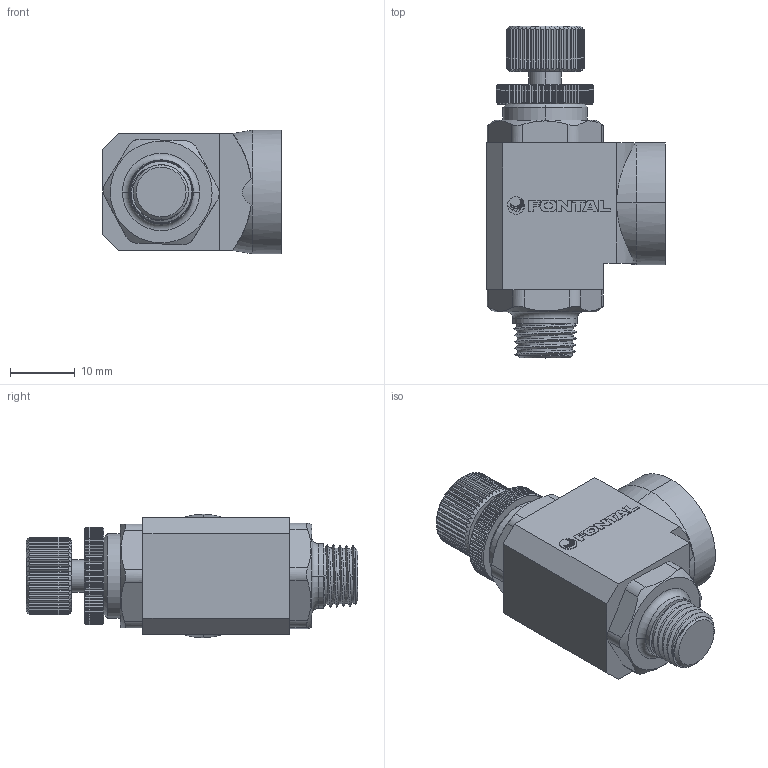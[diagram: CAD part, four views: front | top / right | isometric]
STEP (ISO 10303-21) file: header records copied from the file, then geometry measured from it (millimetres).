
FILE_DESCRIPTION (( 'STEP AP203' ), '1' );
FILE_NAME ('SPE-2H-2.STEP', '2016-01-14T19:18:36', ( '' ), ( '' ), 'SwSTEP 2.0', 'SolidWorks 2014', '' );
FILE_SCHEMA (( 'CONFIG_CONTROL_DESIGN' ));
Length unit declared in the file: millimetre
Products named in the file (11): SPE-2H-2; SP-2H-3; SP-2H-5; SP-2H-2; SP-2H-4; SPE-2H-1-2; ZH-H-MARK; SP-2H-6-2; SP-2H-6; SP-2H-上半部
Assembly tree (10 placements, depth 3):
  SPE-2H-2
    SP-2H-上半部
      SP-2H-2
      SP-2H-3
      SP-2H-4
      SP-2H-5
      SP-2H-6
    SP-2H-6-2
    SPE-2H-2
    ZH-H-MARK
    SPE-2H-1-2
Bounding box: 27.5 x 51.1 x 19 mm (x, y, z)
Volume: 11694.8 mm3; surface area: 6686.9 mm2
Topology: 15 solids, 15 shells, 763 faces, 1840 edges, 1108 vertices
Faces by surface type: plane 372, cone 199, cylinder 179, bspline 11, torus 2
Entity records: 26165 total; most frequent: CARTESIAN_POINT 8171, ORIENTED_EDGE 3676, DIRECTION 3292, EDGE_CURVE 1838, AXIS2_PLACEMENT_3D 1301, VERTEX_POINT 1108, EDGE_LOOP 774, ADVANCED_FACE 763
